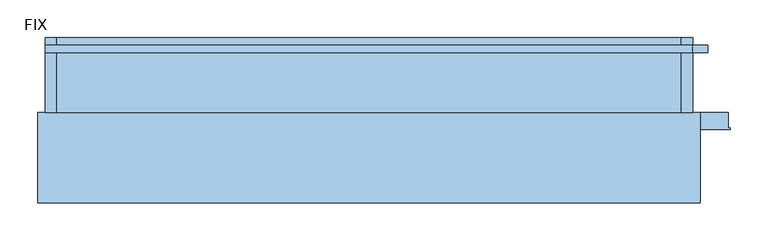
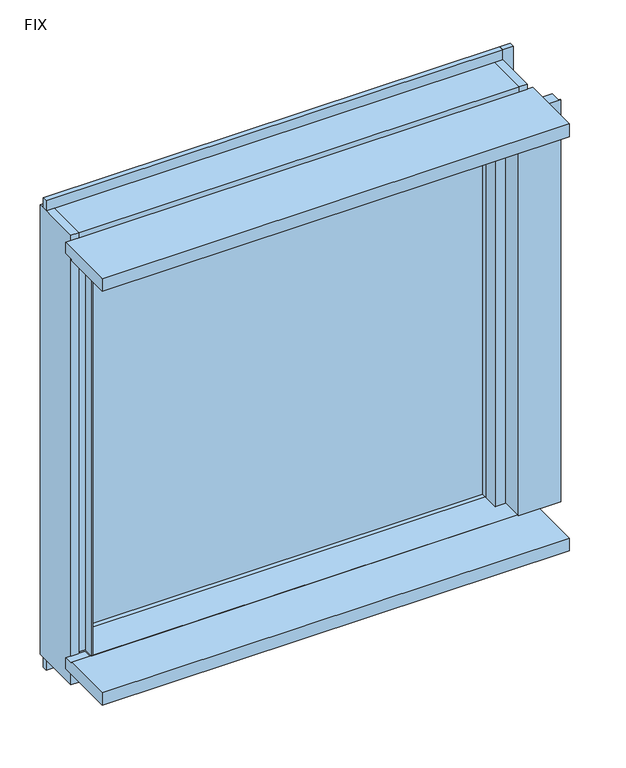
"""IFC4 building model written with IfcOpenShell, lengths in millimetres: window geometry, FNSⅡ100R_非防火_面付枠_単窓 : FIX."""

from ifc_helpers import new_model, si_unit, frame, origin, place, context, project, spatial, polyline, outline, extrude, faceted_brep, source, transform, mapped, element, save


def fix_653ad6b1(model_context):
    return source(origin(), model_context, "Body", "SolidModel", [
        extrude(outline(polyline([(-380.0, 75.6), (380.0, 75.6), (380.0, 69.6), (-380.0, 69.6), (-380.0, 75.6)])), frame((0.0, 0.0, 900.0), z_axis=(0.0, 0.0, 1.0), x_axis=(1.0, 0.0, 0.0)), (0.0, 0.0, 1.0), 780.0),
        extrude(outline(polyline([(-380.0, 93.6), (380.0, 93.6), (380.0, 87.6), (-380.0, 87.6), (-380.0, 93.6)])), frame((0.0, 0.0, 900.0), z_axis=(0.0, 0.0, 1.0), x_axis=(1.0, 0.0, 0.0)), (0.0, 0.0, 1.0), 780.0),
        faceted_brep([(-380.0, 60.0, 1680.0), (-415.0, 60.0, 1680.0), (-415.0, 60.0, 900.0), (-380.0, 60.0, 900.0), (-380.0, 110.0, 1680.0), (-380.0, 110.0, 900.0), (-415.0, 110.0, 1735.0), (-415.0, 10.0, 1735.0), (-415.0, 10.0, 840.0), (-415.0, 110.0, 840.0), (-415.0, 110.0, 900.0), (-415.0, 110.0, 1680.0), (-430.0, 110.0, 1735.0), (-430.0, 10.0, 1735.0), (-430.0, 110.0, 840.0), (-430.0, 10.0, 840.0)], [[[0, 1, 2, 3]], [[4, 0, 3, 5]], [[6, 7, 8, 9, 10, 2, 1, 11]], [[5, 3, 2, 10]], [[12, 13, 7, 6]], [[14, 9, 8, 15]], [[13, 12, 14, 15]], [[7, 13, 15, 8]], [[12, 6, 11, 4, 5, 10, 9, 14]], [[4, 11, 1, 0]]]),
        faceted_brep([(380.0, 60.0, 1680.0), (380.0, 110.0, 1680.0), (380.0, 110.0, 900.0), (380.0, 60.0, 900.0), (415.0, 60.0, 1680.0), (415.0, 60.0, 900.0), (430.0, 10.0, 1735.0), (415.0, 10.0, 1735.0), (415.0, 10.0, 840.0), (430.0, 10.0, 840.0), (430.0, 110.0, 1735.0), (430.0, 110.0, 840.0), (415.0, 110.0, 900.0), (415.0, 110.0, 1735.0), (415.0, 110.0, 840.0), (415.0, 110.0, 1680.0)], [[[0, 1, 2, 3]], [[4, 0, 3, 5]], [[6, 7, 8, 9]], [[10, 6, 9, 11]], [[5, 3, 2, 12]], [[10, 13, 7, 6]], [[11, 9, 8, 14]], [[13, 10, 11, 14, 12, 2, 1, 15]], [[7, 13, 15, 4, 5, 12, 14, 8]], [[15, 1, 0, 4]]]),
        extrude(outline(polyline([(400.0, -10.0), (400.0, 28.5), (380.0, 28.5), (380.0, 60.0), (415.0, 60.0), (415.0, 10.0), (403.0, 10.0), (403.0, -10.0), (400.0, -10.0)])), frame((0.0, 0.0, 900.0), z_axis=(0.0, 0.0, 1.0), x_axis=(1.0, 0.0, 0.0)), (0.0, 0.0, 1.0), 800.0),
        extrude(outline(polyline([(-415.0, 10.0), (-415.0, 60.0), (-380.0, 60.0), (-380.0, 28.5), (-400.0, 28.5), (-400.0, -10.0), (-403.0, -10.0), (-403.0, 10.0), (-415.0, 10.0)])), frame((0.0, 0.0, 900.0), z_axis=(0.0, 0.0, 1.0), x_axis=(1.0, 0.0, 0.0)), (0.0, 0.0, 1.0), 800.0),
        extrude(outline(polyline([(10.0, 884.0), (10.0, 897.0), (-10.0, 897.0), (-10.0, 900.0), (60.0, 900.0), (60.0, 884.0), (10.0, 884.0)])), frame((-403.0, 0.0, 0.0), z_axis=(1.0, 0.0, 0.0), x_axis=(0.0, 1.0, 0.0)), (0.0, 0.0, 1.0), 806.0),
        extrude(outline(polyline([(110.0, 840.0), (10.0, 840.0), (10.0, 884.0), (60.0, 884.0), (60.0, 900.0), (110.0, 900.0), (110.0, 870.0), (91.0, 870.0), (91.0, 850.0), (110.0, 850.0), (110.0, 840.0)])), frame((-415.0, 0.0, 0.0), z_axis=(1.0, 0.0, 0.0), x_axis=(0.0, 1.0, 0.0)), (0.0, 0.0, 1.0), 830.0),
        extrude(outline(polyline([(60.0, 1677.0), (26.0, 1677.0), (26.0, 1700.0), (-10.0, 1700.0), (-10.0, 1703.0), (10.0, 1703.0), (10.0, 1715.0), (60.0, 1715.0), (60.0, 1677.0)])), frame((-403.0, 0.0, 0.0), z_axis=(1.0, 0.0, 0.0), x_axis=(0.0, 1.0, 0.0)), (0.0, 0.0, 1.0), 806.0),
        extrude(outline(polyline([(110.0, 1680.0), (60.0, 1680.0), (60.0, 1715.0), (10.0, 1715.0), (10.0, 1735.0), (110.0, 1735.0), (110.0, 1680.0)])), frame((-415.0, 0.0, 0.0), z_axis=(1.0, 0.0, 0.0), x_axis=(0.0, 1.0, 0.0)), (0.0, 0.0, 1.0), 830.0),
        extrude(outline(polyline([(450.0, 90.0), (430.0, 90.0), (430.0, 100.0), (450.0, 100.0), (450.0, 90.0)])), frame((0.0, 0.0, 820.0), z_axis=(0.0, 0.0, 1.0), x_axis=(1.0, 0.0, 0.0)), (0.0, 0.0, 1.0), 935.0),
        extrude(outline(polyline([(403.0, -10.0), (403.0, 10.0), (477.0, 10.0), (477.0, -10.0), (480.0, -10.0), (480.0, -12.5), (400.0, -12.5), (400.0, -10.0), (403.0, -10.0)])), frame((0.0, 0.0, 900.0), z_axis=(0.0, 0.0, 1.0), x_axis=(1.0, 0.0, 0.0)), (0.0, 0.0, 1.0), 800.0),
        extrude(outline(polyline([(-110.0, 900.0), (-10.0, 900.0), (-10.0, 897.0), (10.0, 897.0), (10.0, 875.0), (-110.0, 875.0), (-110.0, 900.0)])), frame((-440.0, 0.0, 0.0), z_axis=(1.0, 0.0, 0.0), x_axis=(0.0, 1.0, 0.0)), (0.0, 0.0, 1.0), 880.0),
        extrude(outline(polyline([(-430.0, 90.0), (-430.0, 100.0), (430.0, 100.0), (430.0, 90.0), (-430.0, 90.0)])), frame((0.0, 0.0, 820.0), z_axis=(0.0, 0.0, 1.0), x_axis=(1.0, 0.0, 0.0)), (0.0, 0.0, 1.0), 20.0),
        extrude(outline(polyline([(-110.0, 1725.0), (10.0, 1725.0), (10.0, 1703.0), (-10.0, 1703.0), (-10.0, 1700.0), (-110.0, 1700.0), (-110.0, 1725.0)])), frame((-440.0, 0.0, 0.0), z_axis=(1.0, 0.0, 0.0), x_axis=(0.0, 1.0, 0.0)), (0.0, 0.0, 1.0), 880.0),
        extrude(outline(polyline([(-430.0, 90.0), (-430.0, 100.0), (430.0, 100.0), (430.0, 90.0), (-430.0, 90.0)])), frame((0.0, 0.0, 1735.0), z_axis=(0.0, 0.0, 1.0), x_axis=(1.0, 0.0, 0.0)), (0.0, 0.0, 1.0), 20.0),
    ])


if __name__ == "__main__":
    model = new_model("IFC4")
    model_context = context("Model", 3, world=origin())
    ifc_project = project(units=[si_unit("LENGTHUNIT", "METRE", prefix="MILLI")], contexts=[model_context])
    site = spatial("IfcSite", under=ifc_project)
    building = spatial("IfcBuilding", under=site)
    placement = place(None, origin())
    fix_shape = fix_653ad6b1(model_context)
    element("IfcWindow", 1, ObjectType="FNSⅡ100R_非防火_面付枠_単窓 : FIX", at=placement, inside=building, context=model_context, shape_type="MappedRepresentation", body=[
        mapped(fix_shape, transform((0.0, 0.0, 0.0), x_axis=(1.0, 0.0, 0.0), y_axis=(0.0, 1.0, 0.0), z_axis=(0.0, 0.0, 1.0))),
    ])
    save(model, "model.ifc")
